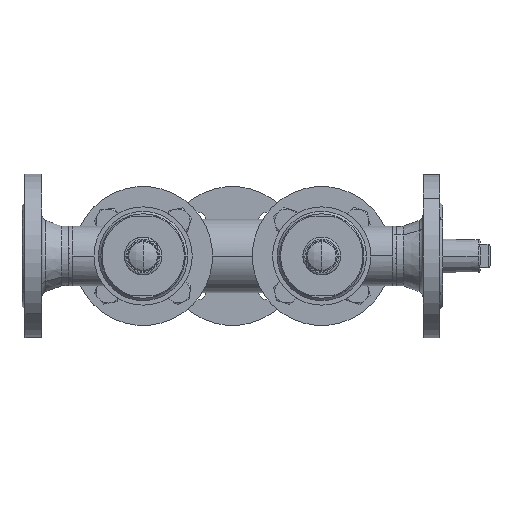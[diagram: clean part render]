
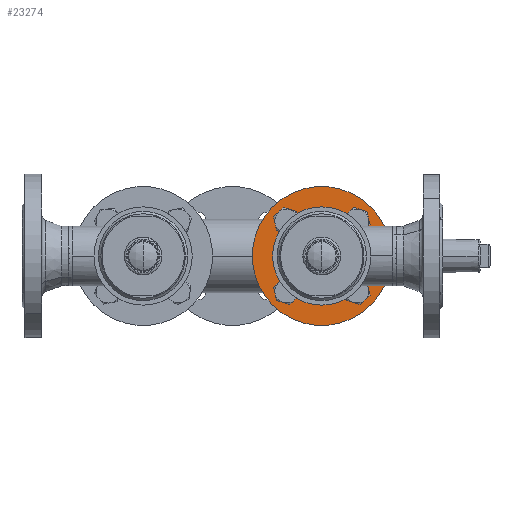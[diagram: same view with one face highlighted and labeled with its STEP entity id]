
A CAD part, left-side view. The second image highlights one B-rep face of the part: STEP entity #23274.
In plain terms, the highlighted planar face has unit normal (-1, 0, 0) as drawn and (0, 1, 0) by its records, which use the part's own axes.
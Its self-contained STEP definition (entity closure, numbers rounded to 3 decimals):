
#16385 = CARTESIAN_POINT ( 'NONE',  ( 70., 18., 0. ) ) ;
#16386 = DIRECTION ( 'NONE',  ( 0., -1., 0. ) ) ;
#16387 = DIRECTION ( 'NONE',  ( 1., 0., 0. ) ) ;
#16391 = EDGE_CURVE ( 'NONE', #18228, #15946, #36422, .T. ) ;
#16468 = ORIENTED_EDGE ( 'NONE', *, *, #7711, .F. ) ;
#523 = CARTESIAN_POINT ( 'NONE',  ( -32.147, 18., 0. ) ) ;
#33612 = EDGE_CURVE ( 'NONE', #15946, #18228, #31883, .T. ) ;
#17257 = CIRCLE ( 'NONE', #17258, 32.147 ) ;
#17258 = AXIS2_PLACEMENT_3D ( 'NONE', #17259, #17260, #17261 ) ;
#17259 = CARTESIAN_POINT ( 'NONE',  ( 0., 18., 0. ) ) ;
#17260 = DIRECTION ( 'NONE',  ( 0., 1., 0. ) ) ;
#17261 = DIRECTION ( 'NONE',  ( -1., 0., 0. ) ) ;
#17537 = EDGE_CURVE ( 'NONE', #7253, #9554, #38805, .T. ) ;
#1626 = VERTEX_POINT ( 'NONE', #37212 ) ;
#1738 = EDGE_CURVE ( 'NONE', #14123, #11819, #37267, .T. ) ;
#18197 = CIRCLE ( 'NONE', #18198, 70. ) ;
#18198 = AXIS2_PLACEMENT_3D ( 'NONE', #18199, #18200, #18201 ) ;
#18199 = CARTESIAN_POINT ( 'NONE',  ( 0., 18., 0. ) ) ;
#18200 = DIRECTION ( 'NONE',  ( 0., 1., 0. ) ) ;
#18201 = DIRECTION ( 'NONE',  ( -1., 0., 0. ) ) ;
#18228 = VERTEX_POINT ( 'NONE', #39882 ) ;
#18304 = ORIENTED_EDGE ( 'NONE', *, *, #17537, .F. ) ;
#18324 = CARTESIAN_POINT ( 'NONE',  ( 59., 18., 0. ) ) ;
#2283 = EDGE_CURVE ( 'NONE', #24973, #1626, #37864, .T. ) ;
#2827 = ORIENTED_EDGE ( 'NONE', *, *, #1738, .T. ) ;
#19383 = EDGE_LOOP ( 'NONE', ( #18304, #16468 ) ) ;
#35879 = CARTESIAN_POINT ( 'NONE',  ( -9., 18., 50. ) ) ;
#19883 = ORIENTED_EDGE ( 'NONE', *, *, #39325, .F. ) ;
#36422 = CIRCLE ( 'NONE', #36423, 9. ) ;
#36423 = AXIS2_PLACEMENT_3D ( 'NONE', #36424, #36425, #36468 ) ;
#36424 = CARTESIAN_POINT ( 'NONE',  ( 0., 18., 50. ) ) ;
#36425 = DIRECTION ( 'NONE',  ( 0., 1., 0. ) ) ;
#36468 = DIRECTION ( 'NONE',  ( 0., 0., -1. ) ) ;
#4135 = ORIENTED_EDGE ( 'NONE', *, *, #12267, .T. ) ;
#37212 = CARTESIAN_POINT ( 'NONE',  ( 41., 18., 0. ) ) ;
#20835 = VERTEX_POINT ( 'NONE', #523 ) ;
#37267 = CIRCLE ( 'NONE', #37268, 70. ) ;
#37268 = AXIS2_PLACEMENT_3D ( 'NONE', #37269, #37270, #37271 ) ;
#37269 = CARTESIAN_POINT ( 'NONE',  ( 0., 18., 0. ) ) ;
#37270 = DIRECTION ( 'NONE',  ( 0., 1., 0. ) ) ;
#37271 = DIRECTION ( 'NONE',  ( -1., 0., 0. ) ) ;
#20951 = EDGE_CURVE ( 'NONE', #38668, #41922, #12476, .T. ) ;
#21297 = EDGE_CURVE ( 'NONE', #23125, #20835, #13215, .T. ) ;
#37864 = CIRCLE ( 'NONE', #37865, 9. ) ;
#37865 = AXIS2_PLACEMENT_3D ( 'NONE', #37866, #37867, #37868 ) ;
#37866 = CARTESIAN_POINT ( 'NONE',  ( 50., 18., 0. ) ) ;
#37867 = DIRECTION ( 'NONE',  ( 0., 1., 0. ) ) ;
#37868 = DIRECTION ( 'NONE',  ( -1., 0., 0. ) ) ;
#21722 = ORIENTED_EDGE ( 'NONE', *, *, #20951, .F. ) ;
#38668 = VERTEX_POINT ( 'NONE', #39469 ) ;
#38805 = CIRCLE ( 'NONE', #38806, 9. ) ;
#38806 = AXIS2_PLACEMENT_3D ( 'NONE', #38807, #38808, #38809 ) ;
#38807 = CARTESIAN_POINT ( 'NONE',  ( -50., 18., 0. ) ) ;
#38808 = DIRECTION ( 'NONE',  ( 0., 1., 0. ) ) ;
#38809 = DIRECTION ( 'NONE',  ( 1., 0., 0. ) ) ;
#22791 = EDGE_LOOP ( 'NONE', ( #21722, #19883 ) ) ;
#39325 = EDGE_CURVE ( 'NONE', #41922, #38668, #39949, .T. ) ;
#39469 = CARTESIAN_POINT ( 'NONE',  ( -9., 18., -50. ) ) ;
#23125 = VERTEX_POINT ( 'NONE', #15779 ) ;
#6885 = CARTESIAN_POINT ( 'NONE',  ( -59., 18., 0. ) ) ;
#23274 = ADVANCED_FACE ( 'NONE', ( #16377, #16378, #16379, #16380, #16381, #16382 ), #16383, .F. ) ;
#39882 = CARTESIAN_POINT ( 'NONE',  ( 9., 18., 50. ) ) ;
#39949 = CIRCLE ( 'NONE', #39950, 9. ) ;
#39950 = AXIS2_PLACEMENT_3D ( 'NONE', #39951, #39952, #39953 ) ;
#39951 = CARTESIAN_POINT ( 'NONE',  ( 0., 18., -50. ) ) ;
#39952 = DIRECTION ( 'NONE',  ( 0., 1., 0. ) ) ;
#39953 = DIRECTION ( 'NONE',  ( 0., 0., 1. ) ) ;
#7253 = VERTEX_POINT ( 'NONE', #6885 ) ;
#24002 = EDGE_CURVE ( 'NONE', #20835, #23125, #17257, .T. ) ;
#7711 = EDGE_CURVE ( 'NONE', #9554, #7253, #8058, .T. ) ;
#8058 = CIRCLE ( 'NONE', #8059, 9. ) ;
#8059 = AXIS2_PLACEMENT_3D ( 'NONE', #8060, #8061, #8062 ) ;
#8060 = CARTESIAN_POINT ( 'NONE',  ( -50., 18., 0. ) ) ;
#8061 = DIRECTION ( 'NONE',  ( 0., 1., 0. ) ) ;
#8062 = DIRECTION ( 'NONE',  ( 1., 0., 0. ) ) ;
#24973 = VERTEX_POINT ( 'NONE', #18324 ) ;
#25523 = CIRCLE ( 'NONE', #25524, 9. ) ;
#25524 = AXIS2_PLACEMENT_3D ( 'NONE', #25525, #25526, #25527 ) ;
#25525 = CARTESIAN_POINT ( 'NONE',  ( 50., 18., 0. ) ) ;
#25526 = DIRECTION ( 'NONE',  ( 0., 1., 0. ) ) ;
#25527 = DIRECTION ( 'NONE',  ( -1., 0., 0. ) ) ;
#41922 = VERTEX_POINT ( 'NONE', #43431 ) ;
#25649 = EDGE_LOOP ( 'NONE', ( #4135, #2827 ) ) ;
#9554 = VERTEX_POINT ( 'NONE', #12423 ) ;
#26152 = ORIENTED_EDGE ( 'NONE', *, *, #21297, .F. ) ;
#43431 = CARTESIAN_POINT ( 'NONE',  ( 9., 18., -50. ) ) ;
#27213 = ORIENTED_EDGE ( 'NONE', *, *, #24002, .F. ) ;
#11819 = VERTEX_POINT ( 'NONE', #14917 ) ;
#28290 = EDGE_LOOP ( 'NONE', ( #27213, #26152 ) ) ;
#12267 = EDGE_CURVE ( 'NONE', #11819, #14123, #18197, .T. ) ;
#28791 = ORIENTED_EDGE ( 'NONE', *, *, #2283, .F. ) ;
#12423 = CARTESIAN_POINT ( 'NONE',  ( -41., 18., 0. ) ) ;
#12476 = CIRCLE ( 'NONE', #12477, 9. ) ;
#12477 = AXIS2_PLACEMENT_3D ( 'NONE', #12478, #12479, #12480 ) ;
#12478 = CARTESIAN_POINT ( 'NONE',  ( 0., 18., -50. ) ) ;
#12479 = DIRECTION ( 'NONE',  ( 0., 1., 0. ) ) ;
#12480 = DIRECTION ( 'NONE',  ( 0., 0., 1. ) ) ;
#13215 = CIRCLE ( 'NONE', #13216, 32.147 ) ;
#13216 = AXIS2_PLACEMENT_3D ( 'NONE', #13217, #13218, #13219 ) ;
#13217 = CARTESIAN_POINT ( 'NONE',  ( 0., 18., 0. ) ) ;
#13218 = DIRECTION ( 'NONE',  ( 0., 1., 0. ) ) ;
#13219 = DIRECTION ( 'NONE',  ( -1., 0., 0. ) ) ;
#29863 = EDGE_CURVE ( 'NONE', #1626, #24973, #25523, .T. ) ;
#14123 = VERTEX_POINT ( 'NONE', #31602 ) ;
#30637 = ORIENTED_EDGE ( 'NONE', *, *, #29863, .F. ) ;
#14913 = ORIENTED_EDGE ( 'NONE', *, *, #33612, .F. ) ;
#14917 = CARTESIAN_POINT ( 'NONE',  ( -70., 18., 0. ) ) ;
#31602 = CARTESIAN_POINT ( 'NONE',  ( 70., 18., 0. ) ) ;
#31702 = EDGE_LOOP ( 'NONE', ( #30637, #28791 ) ) ;
#31883 = CIRCLE ( 'NONE', #31884, 9. ) ;
#31884 = AXIS2_PLACEMENT_3D ( 'NONE', #31910, #31911, #31912 ) ;
#31910 = CARTESIAN_POINT ( 'NONE',  ( 0., 18., 50. ) ) ;
#31911 = DIRECTION ( 'NONE',  ( 0., 1., 0. ) ) ;
#31912 = DIRECTION ( 'NONE',  ( 0., 0., -1. ) ) ;
#15779 = CARTESIAN_POINT ( 'NONE',  ( 32.147, 18., 0. ) ) ;
#32189 = ORIENTED_EDGE ( 'NONE', *, *, #16391, .F. ) ;
#15946 = VERTEX_POINT ( 'NONE', #35879 ) ;
#15984 = EDGE_LOOP ( 'NONE', ( #14913, #32189 ) ) ;
#16377 = FACE_BOUND ( 'NONE', #22791, .T. ) ;
#16378 = FACE_BOUND ( 'NONE', #19383, .T. ) ;
#16379 = FACE_BOUND ( 'NONE', #15984, .T. ) ;
#16380 = FACE_BOUND ( 'NONE', #31702, .T. ) ;
#16381 = FACE_BOUND ( 'NONE', #28290, .T. ) ;
#16382 = FACE_OUTER_BOUND ( 'NONE', #25649, .T. ) ;
#16383 = PLANE ( 'NONE',  #16384 ) ;
#16384 = AXIS2_PLACEMENT_3D ( 'NONE', #16385, #16386, #16387 ) ;
